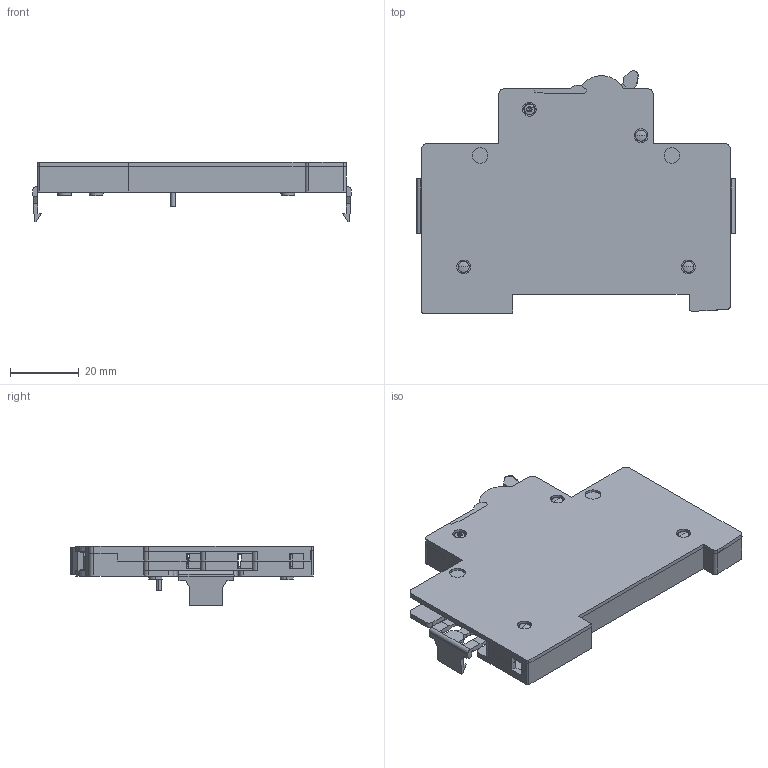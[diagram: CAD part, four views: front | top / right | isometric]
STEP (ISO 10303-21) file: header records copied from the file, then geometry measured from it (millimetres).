
FILE_DESCRIPTION (( 'STEP AP214' ), '1' );
FILE_NAME ('PS-LS.step', '2011-08-08T12:09:14', ( 'Radek Veselý' ), ( 'Siemens and Partners' ), 'SwSTEP 2.0', 'SolidWorks 2006303', '' );
FILE_SCHEMA (( 'AUTOMOTIVE_DESIGN' ));
Length unit declared in the file: millimetre
Products named in the file (1): PS-LS
Bounding box: 93 x 70.73 x 17.5 mm (x, y, z)
Volume: 20498.3 mm3; surface area: 31050.2 mm2
Topology: 16 solids, 16 shells, 1687 faces, 4552 edges, 2947 vertices
Faces by surface type: plane 1143, cylinder 401, torus 54, cone 47, sphere 42
Entity records: 71635 total; most frequent: CARTESIAN_POINT 9792, ORIENTED_EDGE 9080, DIRECTION 8960, EDGE_CURVE 4540, VECTOR 3230, LINE 3230, VERTEX_POINT 2945, AXIS2_PLACEMENT_3D 2865
